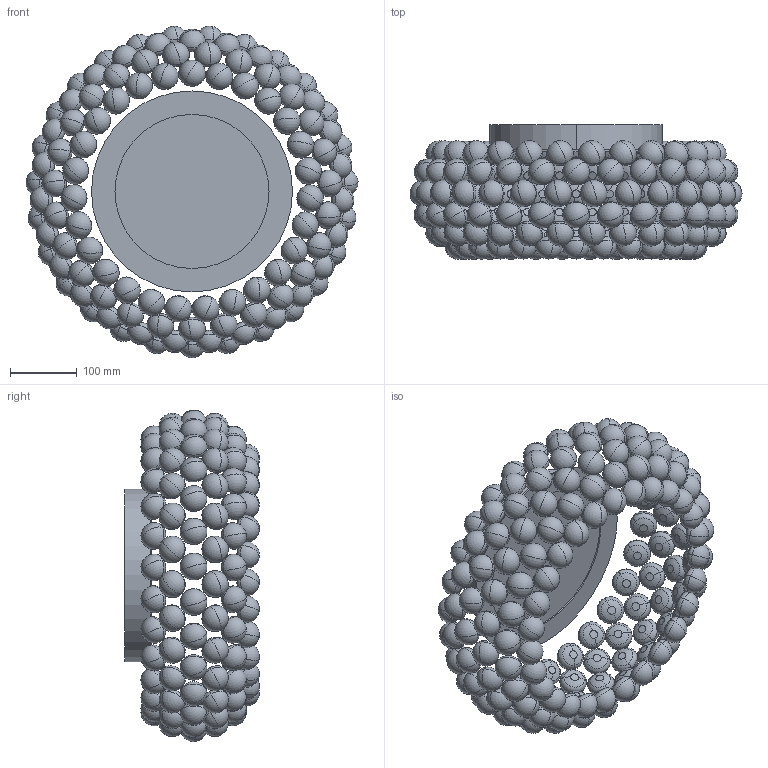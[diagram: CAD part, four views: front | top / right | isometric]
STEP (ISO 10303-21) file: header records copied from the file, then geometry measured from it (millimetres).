
FILE_DESCRIPTION (( 'STEP AP214' ), '1' );
FILE_NAME ('311_STD_C_XX_3D.STEP', '2021-05-21T09:07:05', ( '' ), ( '' ), 'SwSTEP 2.0', 'SolidWorks 2021', '' );
FILE_SCHEMA (( 'AUTOMOTIVE_DESIGN' ));
Length unit declared in the file: millimetre
Products named in the file (1): 311_STD_C_XX_3D
Bounding box: 495.66 x 201.01 x 494.84 mm (x, y, z)
Volume: 6410726.7 mm3; surface area: 891191.9 mm2
Topology: 163 solids, 163 shells, 1468 faces, 3258 edges, 1794 vertices
Faces by surface type: sphere 648, cylinder 330, torus 324, plane 166
Entity records: 53534 total; most frequent: DIRECTION 7828, CARTESIAN_POINT 5549, ORIENTED_EDGE 5220, AXIS2_PLACEMENT_3D 3749, EDGE_CURVE 2610, CIRCLE 2280, UNCERTAINTY_MEASURE_WITH_UNIT 1633, FILL_AREA_STYLE_COLOUR 1632
